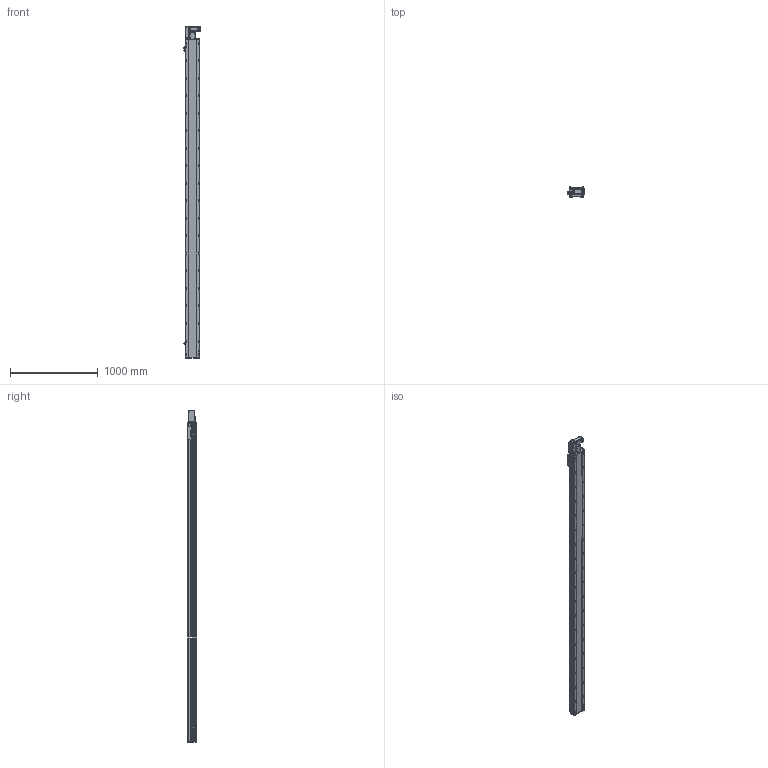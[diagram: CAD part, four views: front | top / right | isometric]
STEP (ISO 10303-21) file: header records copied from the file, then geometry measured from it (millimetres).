
FILE_DESCRIPTION (( 'STEP AP214' ), '1' );
FILE_NAME ('RTB17S-XX-3350-L-M40-C4.STEP', '2025-12-11T06:07:38', ( '' ), ( '' ), 'SwSTEP 2.0', 'SolidWorks 2018', '' );
FILE_SCHEMA (( 'AUTOMOTIVE_DESIGN' ));
Length unit declared in the file: millimetre
Products named in the file (14): RTH13-BL-012覜茼え俋离^RTB17S-XX-XX-L-M40-C4; RTB17S-L-004佪裝蹟譫蟀諉釱^RTB17S-XX-XX-L-M40-C4; RTB17S-XX-3350-L-M40-C4; RTB14-L-008-M20--萇儂啣^RTB17S-L-々湍釱蚾饜-400W_RTB17S-XX-XX-L-M40-C4; RTB17S-L-001耜醱啣^RTB17S-XX-XX-L-M40-C4; OMRON EE-SX672 传感器^RTB17S-XX-XX-L-M40-C4; RTB17S-L-々湍釱蚾饜-400W^RTB17S-XX-XX-L-M40-C4; RTB14-L-017P^RTB17S-L-々湍釱蚾饜-400W_RTB17S-XX-XX-L-M40-C4; RTB17S-L-007奻裔^RTB17S-XX-XX-L-M40-C4; RTB17-R-011菁釱^RTB17S-XX-XX-L-M40-C4; RTB14-L-018P^RTB17S-L-々湍釱蚾饜-400W_RTB17S-XX-XX-L-M40-C4; 400W侜督萇儂^RTB17S-XX-XX-L-M40-C4; RMP17S-L-014-T20--々湍釱^RTB17S-L-々湍釱蚾饜-400W_RTB17S-XX-XX-L-M40-C4; RTB14-L-005P--轴承塑胶压盖^RTB17S-L-皮带座装配-400W_RTB17S-XX-XX-L-M40-C4
Assembly tree (16 placements, depth 3):
  RTB17S-XX-3350-L-M40-C4
    RTB17-R-011菁釱^RTB17S-XX-XX-L-M40-C4
    RTB17S-L-007奻裔^RTB17S-XX-XX-L-M40-C4
    OMRON EE-SX672 传感器^RTB17S-XX-XX-L-M40-C4  x3
    RTB17S-L-001耜醱啣^RTB17S-XX-XX-L-M40-C4
    400W侜督萇儂^RTB17S-XX-XX-L-M40-C4
    RTB17S-L-004佪裝蹟譫蟀諉釱^RTB17S-XX-XX-L-M40-C4
    RTH13-BL-012覜茼え俋离^RTB17S-XX-XX-L-M40-C4
    RTB17S-L-々湍釱蚾饜-400W^RTB17S-XX-XX-L-M40-C4
      RMP17S-L-014-T20--々湍釱^RTB17S-L-々湍釱蚾饜-400W_RTB17S-XX-XX-L-M40-C4
      RTB14-L-005P--轴承塑胶压盖^RTB17S-L-皮带座装配-400W_RTB17S-XX-XX-L-M40-C4
      RTB14-L-008-M20--萇儂啣^RTB17S-L-々湍釱蚾饜-400W_RTB17S-XX-XX-L-M40-C4
      RTB14-L-017P^RTB17S-L-々湍釱蚾饜-400W_RTB17S-XX-XX-L-M40-C4  x2
      RTB14-L-018P^RTB17S-L-々湍釱蚾饜-400W_RTB17S-XX-XX-L-M40-C4
Bounding box: 186 x 108 x 3791 mm (x, y, z)
Volume: 31538391.4 mm3; surface area: 3587899.6 mm2
Topology: 15 solids, 15 shells, 2397 faces, 6735 edges, 4401 vertices
Faces by surface type: plane 1092, cylinder 857, bspline 301, cone 139, torus 8
Entity records: 71849 total; most frequent: CARTESIAN_POINT 20540, ORIENTED_EDGE 10314, DIRECTION 9476, EDGE_CURVE 5157, VERTEX_POINT 3389, AXIS2_PLACEMENT_3D 3319, VECTOR 2838, LINE 2838
